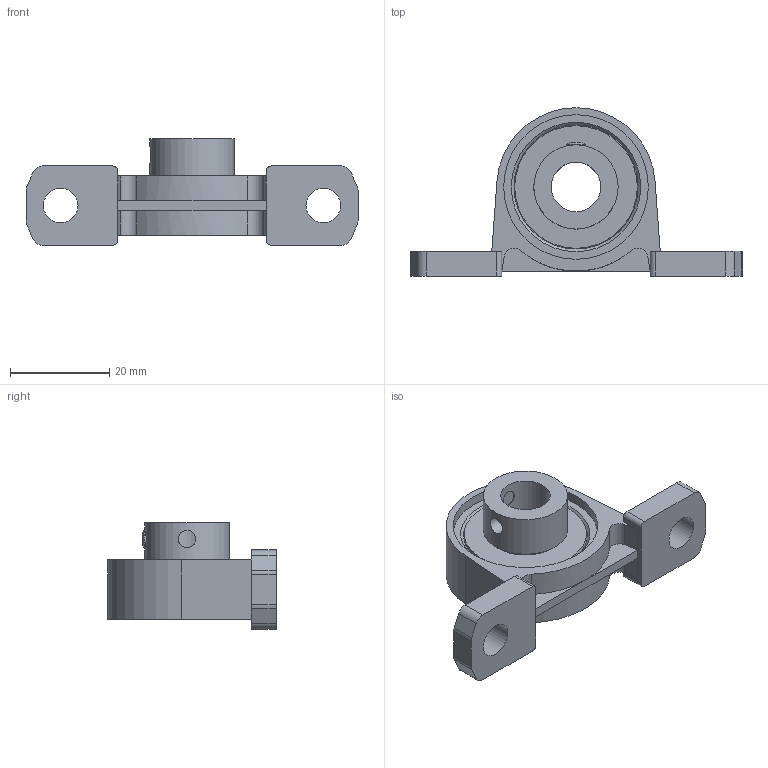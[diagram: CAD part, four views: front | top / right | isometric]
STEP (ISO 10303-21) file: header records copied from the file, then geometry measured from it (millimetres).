
FILE_DESCRIPTION((''),'2;1');
FILE_NAME('\\Ts-tgl068\J-Cad-D-BASE\00.3DCADデータ作成フォルダ\11.エコシリーズ\MUSP000\MUSP000.stp','2014-11-12T09:19:04',('btec_1106_2'),(''),'Autodesk Inventor 2012','Autodesk Inventor 2012','');
FILE_SCHEMA(('AUTOMOTIVE_DESIGN { 1 0 10303 214 1 1 1 1 }'));
Length unit declared in the file: millimetre
Products named in the file (3): MUSP000; SP000; U000
Assembly tree (2 placements, depth 2):
  MUSP000
    SP000
    U000
Bounding box: 67 x 34 x 21.5 mm (x, y, z)
Volume: 11280.2 mm3; surface area: 7619.6 mm2
Topology: 2 solids, 2 shells, 79 faces, 202 edges, 132 vertices
Faces by surface type: plane 44, cylinder 30, cone 3, sphere 2
Full cylindrical faces by diameter (mm): 3.5 x1, 4 x1, 7 x2, 10 x1, 14.8 x1, 17 x1, 29.2 x2
Entity records: 2486 total; most frequent: CARTESIAN_POINT 524, DIRECTION 406, ORIENTED_EDGE 360, EDGE_CURVE 180, AXIS2_PLACEMENT_3D 148, VERTEX_POINT 126, EDGE_LOOP 110, VECTOR 110
